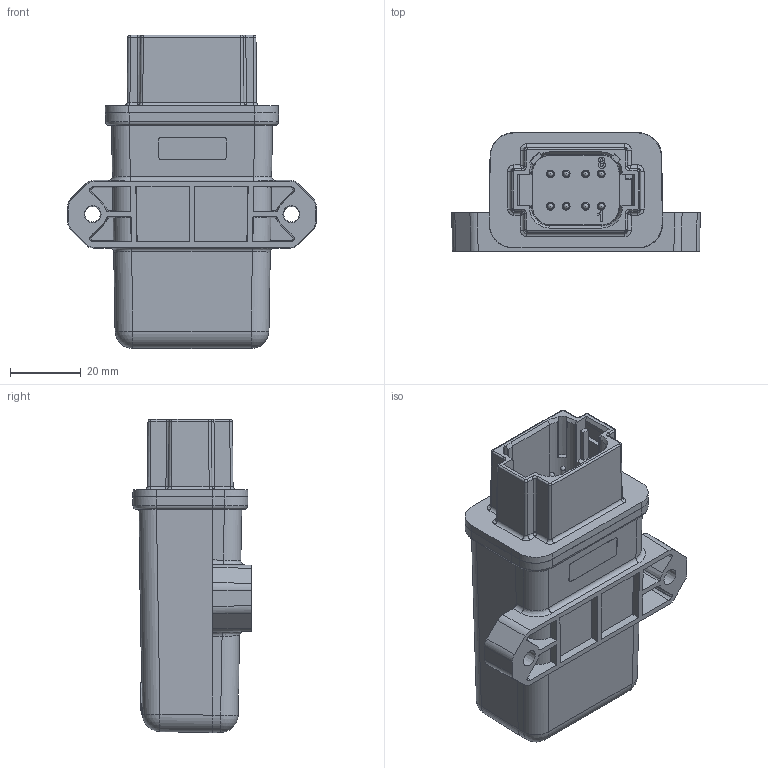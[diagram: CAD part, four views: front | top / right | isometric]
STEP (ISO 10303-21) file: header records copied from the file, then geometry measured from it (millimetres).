
FILE_DESCRIPTION(/* description */ (''),/* implementation_level */ '2;1');
FILE_NAME(/* name */ 'S:\Projects\PS-24-14-2A-CAN, AX090600, Proj_16022\UNIT ASSEMBLY\RELEASED\P3\AX090600.stp',/* time_stamp */ '2019-11-18T16:26:23-05:00',/* author */ ('tfisher'),/* organization */ (''),/* preprocessor_version */ 'ST-DEVELOPER v15.2',/* originating_system */ 'Autodesk Inventor 2014',/* authorisation */ '');
FILE_SCHEMA (('AUTOMOTIVE_DESIGN { 1 0 10303 214 3 1 1 }'));
Products named in the file (1): FG-AX090600 for STEP
Bounding box: 70 x 33.35 x 88.23 mm (x, y, z)
Volume: 93333.6 mm3; surface area: 19927 mm2
Topology: 4 solids, 11 shells, 2282 faces, 6242 edges, 4175 vertices
Faces by surface type: plane 1304, bspline 552, cylinder 312, sphere 51, torus 48, cone 15
Full cylindrical faces by diameter (mm): 1.524 x8, 1.575 x8, 2.184 x8
Entity records: 81326 total; most frequent: CARTESIAN_POINT 26125, ORIENTED_EDGE 12201, DIRECTION 8453, EDGE_CURVE 6104, VERTEX_POINT 4137, LINE 3775, VECTOR 3775, EDGE_LOOP 2586
